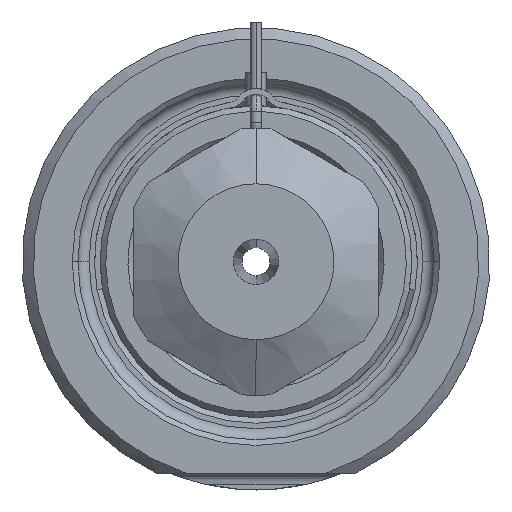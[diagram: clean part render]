
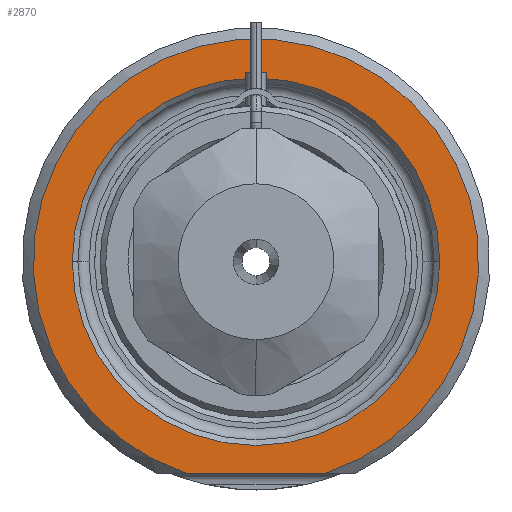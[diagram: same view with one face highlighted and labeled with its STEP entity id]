
A CAD part, front view. The second image highlights one B-rep face of the part: STEP entity #2870.
In plain terms, the highlighted planar face has unit normal (0, -1, 0).
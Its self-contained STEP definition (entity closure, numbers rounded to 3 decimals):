
#1=DIRECTION('',(1.,0.,0.));
#2=VECTOR('',#1,12.49);
#3=CARTESIAN_POINT('',(-6.245,0.,-19.));
#4=LINE('',#3,#2);
#5=CARTESIAN_POINT('',(0.,0.,0.));
#6=DIRECTION('',(0.,1.,0.));
#7=DIRECTION('',(-1.,0.,0.));
#8=AXIS2_PLACEMENT_3D('',#5,#6,#7);
#10=CARTESIAN_POINT('',(0.,0.,0.));
#11=DIRECTION('',(0.,1.,0.));
#12=DIRECTION('',(1.,0.,0.));
#13=AXIS2_PLACEMENT_3D('',#10,#11,#12);
#119=CARTESIAN_POINT('',(0.,0.,0.));
#120=DIRECTION('',(0.,-1.,0.));
#121=DIRECTION('',(0.312,0.,-0.95));
#122=AXIS2_PLACEMENT_3D('',#119,#120,#121);
#2390=CARTESIAN_POINT('',(-16.5,0.,0.));
#2391=CARTESIAN_POINT('',(16.5,0.,0.));
#2392=VERTEX_POINT('',#2390);
#2393=VERTEX_POINT('',#2391);
#2430=CARTESIAN_POINT('',(-6.245,0.,-19.));
#2431=CARTESIAN_POINT('',(6.245,0.,-19.));
#2432=VERTEX_POINT('',#2430);
#2433=VERTEX_POINT('',#2431);
#2853=CARTESIAN_POINT('',(0.,0.,0.));
#2854=DIRECTION('',(0.,-1.,0.));
#2855=DIRECTION('',(1.,0.,0.));
#2856=AXIS2_PLACEMENT_3D('',#2853,#2854,#2855);
#2857=PLANE('',#2856);
#2859=ORIENTED_EDGE('',*,*,#2858,.F.);
#2861=ORIENTED_EDGE('',*,*,#2860,.F.);
#2862=EDGE_LOOP('',(#2859,#2861));
#2863=FACE_OUTER_BOUND('',#2862,.F.);
#2865=ORIENTED_EDGE('',*,*,#2864,.F.);
#2867=ORIENTED_EDGE('',*,*,#2866,.F.);
#2868=EDGE_LOOP('',(#2865,#2867));
#2869=FACE_BOUND('',#2868,.F.);
#2870=ADVANCED_FACE('',(#2863,#2869),#2857,.T.);
#9=CIRCLE('',#8,16.5);
#14=CIRCLE('',#13,16.5);
#123=CIRCLE('',#122,20.);
#2858=EDGE_CURVE('',#2432,#2433,#4,.T.);
#2860=EDGE_CURVE('',#2433,#2432,#123,.T.);
#2864=EDGE_CURVE('',#2392,#2393,#9,.T.);
#2866=EDGE_CURVE('',#2393,#2392,#14,.T.);
